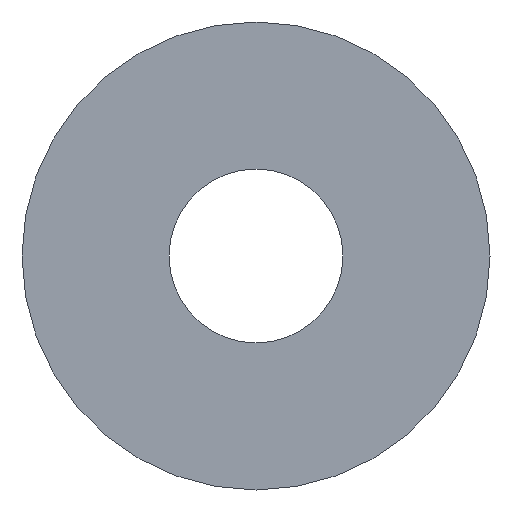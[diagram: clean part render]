
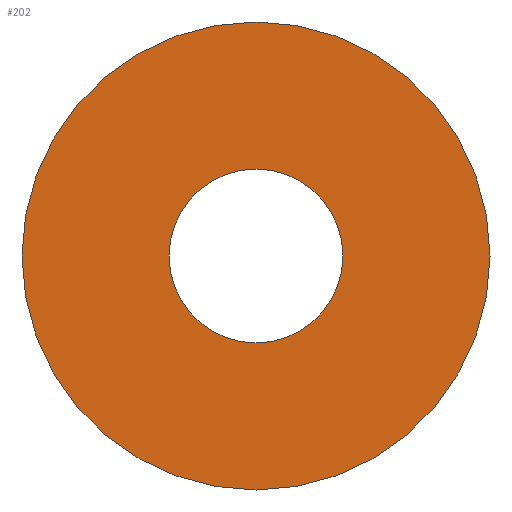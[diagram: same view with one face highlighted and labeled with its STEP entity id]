
A CAD part, front view. The second image highlights one B-rep face of the part: STEP entity #202.
In plain terms, the highlighted planar face has unit normal (0, -1, 0).
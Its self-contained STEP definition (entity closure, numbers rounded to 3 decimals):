
#31 = CYLINDRICAL_SURFACE('',#32,20.2);
#32 = AXIS2_PLACEMENT_3D('',#33,#34,#35);
#33 = CARTESIAN_POINT('',(31.,-32.,43.));
#34 = DIRECTION('',(0.,1.,0.));
#35 = DIRECTION('',(0.,-0.,1.));
#56 = VERTEX_POINT('',#57);
#57 = CARTESIAN_POINT('',(31.,-32.,63.2));
#78 = EDGE_CURVE('',#56,#56,#79,.T.);
#79 = SURFACE_CURVE('',#80,(#85,#92),.PCURVE_S1.);
#80 = CIRCLE('',#81,20.2);
#81 = AXIS2_PLACEMENT_3D('',#82,#83,#84);
#82 = CARTESIAN_POINT('',(31.,-32.,43.));
#83 = DIRECTION('',(0.,1.,0.));
#84 = DIRECTION('',(0.,-0.,1.));
#85 = PCURVE('',#31,#86);
#86 = DEFINITIONAL_REPRESENTATION('',(#87),#91);
#87 = LINE('',#88,#89);
#88 = CARTESIAN_POINT('',(0.,0.));
#89 = VECTOR('',#90,1.);
#90 = DIRECTION('',(1.,0.));
#91 = ( GEOMETRIC_REPRESENTATION_CONTEXT(2) 
PARAMETRIC_REPRESENTATION_CONTEXT() REPRESENTATION_CONTEXT('2D SPACE',''
  ) );
#92 = PCURVE('',#93,#98);
#93 = PLANE('',#94);
#94 = AXIS2_PLACEMENT_3D('',#95,#96,#97);
#95 = CARTESIAN_POINT('',(31.,-32.,43.));
#96 = DIRECTION('',(0.,1.,0.));
#97 = DIRECTION('',(0.,-0.,1.));
#98 = DEFINITIONAL_REPRESENTATION('',(#99),#103);
#99 = CIRCLE('',#100,20.2);
#100 = AXIS2_PLACEMENT_2D('',#101,#102);
#101 = CARTESIAN_POINT('',(0.,0.));
#102 = DIRECTION('',(1.,0.));
#103 = ( GEOMETRIC_REPRESENTATION_CONTEXT(2) 
PARAMETRIC_REPRESENTATION_CONTEXT() REPRESENTATION_CONTEXT('2D SPACE',''
  ) );
#160 = CYLINDRICAL_SURFACE('',#161,7.5);
#161 = AXIS2_PLACEMENT_3D('',#162,#163,#164);
#162 = CARTESIAN_POINT('',(31.,-33.,43.));
#163 = DIRECTION('',(0.,1.,0.));
#164 = DIRECTION('',(0.,-0.,1.));
#202 = ADVANCED_FACE('',(#203,#206),#93,.F.);
#203 = FACE_BOUND('',#204,.F.);
#204 = EDGE_LOOP('',(#205));
#205 = ORIENTED_EDGE('',*,*,#78,.T.);
#206 = FACE_BOUND('',#207,.F.);
#207 = EDGE_LOOP('',(#208));
#208 = ORIENTED_EDGE('',*,*,#209,.F.);
#209 = EDGE_CURVE('',#210,#210,#212,.T.);
#210 = VERTEX_POINT('',#211);
#211 = CARTESIAN_POINT('',(31.,-32.,50.5));
#212 = SURFACE_CURVE('',#213,(#218,#225),.PCURVE_S1.);
#213 = CIRCLE('',#214,7.5);
#214 = AXIS2_PLACEMENT_3D('',#215,#216,#217);
#215 = CARTESIAN_POINT('',(31.,-32.,43.));
#216 = DIRECTION('',(0.,1.,0.));
#217 = DIRECTION('',(0.,-0.,1.));
#218 = PCURVE('',#93,#219);
#219 = DEFINITIONAL_REPRESENTATION('',(#220),#224);
#220 = CIRCLE('',#221,7.5);
#221 = AXIS2_PLACEMENT_2D('',#222,#223);
#222 = CARTESIAN_POINT('',(0.,0.));
#223 = DIRECTION('',(1.,0.));
#224 = ( GEOMETRIC_REPRESENTATION_CONTEXT(2) 
PARAMETRIC_REPRESENTATION_CONTEXT() REPRESENTATION_CONTEXT('2D SPACE',''
  ) );
#225 = PCURVE('',#160,#226);
#226 = DEFINITIONAL_REPRESENTATION('',(#227),#231);
#227 = LINE('',#228,#229);
#228 = CARTESIAN_POINT('',(0.,1.));
#229 = VECTOR('',#230,1.);
#230 = DIRECTION('',(1.,0.));
#231 = ( GEOMETRIC_REPRESENTATION_CONTEXT(2) 
PARAMETRIC_REPRESENTATION_CONTEXT() REPRESENTATION_CONTEXT('2D SPACE',''
  ) );
